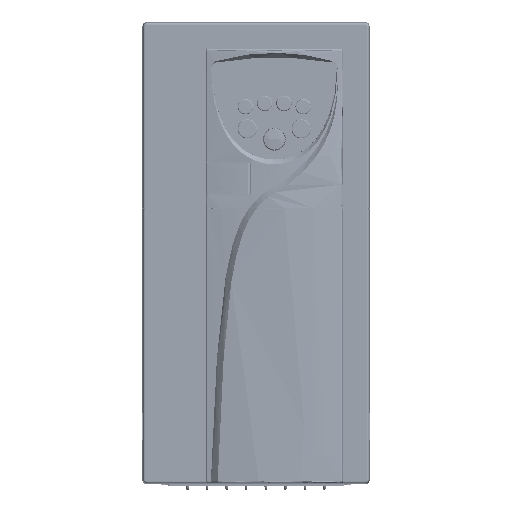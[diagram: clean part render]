
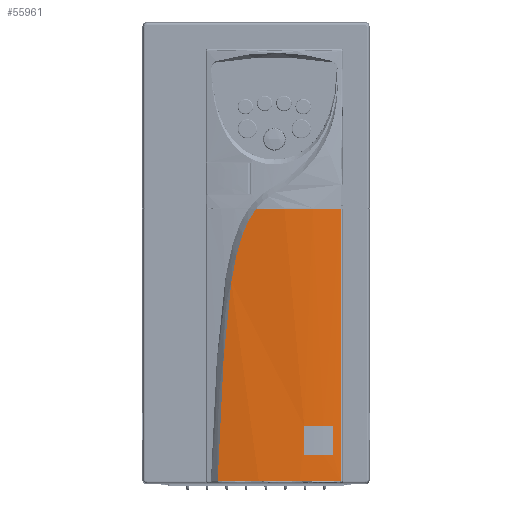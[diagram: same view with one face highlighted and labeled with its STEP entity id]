
A CAD part, top view. The second image highlights one B-rep face of the part: STEP entity #55961.
In plain terms, the highlighted cylindrical face has radius 220.5 mm (diameter 441 mm), a partial arc.
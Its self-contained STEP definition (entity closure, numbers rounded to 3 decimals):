
#55961=ADVANCED_FACE('',(#133831,#133833),#133835,.T.);
#133831=FACE_BOUND('',#133832,.T.);
#133832=EDGE_LOOP('',(#199367,#199368,#199369,#199370,#199371));
#133833=FACE_BOUND('',#133834,.T.);
#133834=EDGE_LOOP('',(#199372,#199373,#199374,#199375));
#133835=CYLINDRICAL_SURFACE('',#133836,220.5);
#133836=AXIS2_PLACEMENT_3D('',#133837,#133838,#133839);
#133837=CARTESIAN_POINT('',(9.5,-57.05,-138.35));
#133838=DIRECTION('',(0.,0.,1.));
#133839=DIRECTION('',(1.,0.,0.));
#199367=ORIENTED_EDGE('',*,*,#234575,.T.);
#199368=ORIENTED_EDGE('',*,*,#234576,.T.);
#199369=ORIENTED_EDGE('',*,*,#234577,.F.);
#199370=ORIENTED_EDGE('',*,*,#234578,.T.);
#199371=ORIENTED_EDGE('',*,*,#234579,.T.);
#199372=ORIENTED_EDGE('',*,*,#234580,.T.);
#199373=ORIENTED_EDGE('',*,*,#234581,.T.);
#199374=ORIENTED_EDGE('',*,*,#234582,.T.);
#199375=ORIENTED_EDGE('',*,*,#234583,.T.);
#234575=EDGE_CURVE('',#270076,#270077,#270078,.T.);
#234576=EDGE_CURVE('',#270077,#270079,#270080,.T.);
#234577=EDGE_CURVE('',#270081,#270079,#270082,.T.);
#234578=EDGE_CURVE('',#270081,#270083,#270084,.T.);
#234579=EDGE_CURVE('',#270083,#270076,#270085,.T.);
#234580=EDGE_CURVE('',#270086,#270087,#270088,.T.);
#234581=EDGE_CURVE('',#270087,#270089,#270090,.T.);
#234582=EDGE_CURVE('',#270089,#270091,#270092,.T.);
#234583=EDGE_CURVE('',#270091,#270086,#270093,.T.);
#270076=VERTEX_POINT('',#387132);
#270077=VERTEX_POINT('',#387133);
#270078=CIRCLE('',#387134,220.5);
#270079=VERTEX_POINT('',#387138);
#270080=B_SPLINE_CURVE_WITH_KNOTS('',3,
(#387139,#387140,#387141,#387142,#387143,#387144,#387145,#387146,#387147,#387148,
#387149,#387150,#387151,#387152,#387153,#387154,#387155,#387156,#387157,#387158,
#387159,#387160,#387161),
.UNSPECIFIED.,.F.,.F.,
(4,1,1,1,1,1,1,1,1,1,1,1,1,1,1,1,1,1,1,1,4),
(0.,0.035,0.066,0.09,0.115,0.139,
0.166,0.193,0.223,0.258,0.3,
0.344,0.393,0.447,0.508,0.576,
0.656,0.741,0.846,0.932,1.),
.UNSPECIFIED.);
#270081=VERTEX_POINT('',#387162);
#270082=B_SPLINE_CURVE_WITH_KNOTS('',3,
(#387163,#387164,#387165,#387166),
.UNSPECIFIED.,.F.,.F.,
(4,4),
(0.,1.),
.UNSPECIFIED.);
#270083=VERTEX_POINT('',#387167);
#270084=B_SPLINE_CURVE_WITH_KNOTS('',3,
(#387168,#387169,#387170,#387171,#387172,#387173,#387174,#387175,#387176,#387177),
.UNSPECIFIED.,.F.,.F.,
(4,1,1,1,1,1,1,4),
(0.,0.179,0.338,0.487,0.641,0.81,
0.935,1.),
.UNSPECIFIED.);
#270085=LINE('',#387178,#387179);
#270086=VERTEX_POINT('',#387181);
#270087=VERTEX_POINT('',#387182);
#270088=LINE('',#387183,#387184);
#270089=VERTEX_POINT('',#387186);
#270090=CIRCLE('',#387187,220.5);
#270091=VERTEX_POINT('',#387191);
#270092=LINE('',#387192,#387193);
#270093=CIRCLE('',#387195,220.5);
#387132=CARTESIAN_POINT('',(44.137,160.712,-22.9));
#387133=CARTESIAN_POINT('',(-0.002,163.245,-22.9));
#387134=AXIS2_PLACEMENT_3D('',#387135,#387136,#387137);
#387135=CARTESIAN_POINT('',(9.5,-57.05,-22.9));
#387136=DIRECTION('',(0.,0.,1.));
#387137=DIRECTION('',(0.157,0.988,0.));
#387138=CARTESIAN_POINT('',(-19.899,161.481,118.319));
#387139=CARTESIAN_POINT('',(-0.002,163.245,-22.9));
#387140=CARTESIAN_POINT('',(-1.007,163.202,-21.52));
#387141=CARTESIAN_POINT('',(-2.854,163.108,-18.923));
#387142=CARTESIAN_POINT('',(-4.827,162.986,-15.046));
#387143=CARTESIAN_POINT('',(-6.345,162.881,-11.562));
#387144=CARTESIAN_POINT('',(-7.541,162.791,-8.27));
#387145=CARTESIAN_POINT('',(-8.636,162.704,-4.825));
#387146=CARTESIAN_POINT('',(-9.627,162.619,-1.209));
#387147=CARTESIAN_POINT('',(-10.567,162.535,2.733));
#387148=CARTESIAN_POINT('',(-11.472,162.451,7.082));
#387149=CARTESIAN_POINT('',(-12.378,162.362,12.136));
#387150=CARTESIAN_POINT('',(-13.259,162.273,17.863));
#387151=CARTESIAN_POINT('',(-14.101,162.184,24.263));
#387152=CARTESIAN_POINT('',(-14.89,162.097,31.269));
#387153=CARTESIAN_POINT('',(-15.645,162.012,39.081));
#387154=CARTESIAN_POINT('',(-16.371,161.927,47.844));
#387155=CARTESIAN_POINT('',(-17.084,161.842,57.871));
#387156=CARTESIAN_POINT('',(-17.763,161.758,69.069));
#387157=CARTESIAN_POINT('',(-18.439,161.673,82.012));
#387158=CARTESIAN_POINT('',(-19.032,161.596,95.24));
#387159=CARTESIAN_POINT('',(-19.521,161.532,107.656));
#387160=CARTESIAN_POINT('',(-19.785,161.496,115.042));
#387161=CARTESIAN_POINT('',(-19.899,161.481,118.319));
#387162=CARTESIAN_POINT('',(-19.899,161.481,118.35));
#387163=CARTESIAN_POINT('',(-19.899,161.481,118.35));
#387164=CARTESIAN_POINT('',(-19.899,161.481,118.34));
#387165=CARTESIAN_POINT('',(-19.899,161.481,118.329));
#387166=CARTESIAN_POINT('',(-19.899,161.481,118.319));
#387167=CARTESIAN_POINT('',(44.137,160.712,118.377));
#387168=CARTESIAN_POINT('',(-19.899,161.481,118.35));
#387169=CARTESIAN_POINT('',(-16.092,161.993,118.337));
#387170=CARTESIAN_POINT('',(-8.883,162.772,118.311));
#387171=CARTESIAN_POINT('',(1.527,163.379,118.285));
#387172=CARTESIAN_POINT('',(11.423,163.513,118.28));
#387173=CARTESIAN_POINT('',(21.52,163.204,118.291));
#387174=CARTESIAN_POINT('',(31.101,162.457,118.316));
#387175=CARTESIAN_POINT('',(38.733,161.533,118.349));
#387176=CARTESIAN_POINT('',(42.764,160.931,118.37));
#387177=CARTESIAN_POINT('',(44.137,160.712,118.377));
#387178=CARTESIAN_POINT('',(44.137,160.712,118.377));
#387179=VECTOR('',#387180,1.);
#387180=DIRECTION('',(0.,0.,-1.));
#387181=CARTESIAN_POINT('',(40.,161.33,90.));
#387182=CARTESIAN_POINT('',(40.,161.33,105.));
#387183=CARTESIAN_POINT('',(40.,161.33,90.));
#387184=VECTOR('',#387185,1.);
#387185=DIRECTION('',(0.,0.,1.));
#387186=CARTESIAN_POINT('',(25.,162.904,105.));
#387187=AXIS2_PLACEMENT_3D('',#387188,#387189,#387190);
#387188=CARTESIAN_POINT('',(9.5,-57.05,105.));
#387189=DIRECTION('',(0.,0.,1.));
#387190=DIRECTION('',(0.138,0.99,0.));
#387191=CARTESIAN_POINT('',(25.,162.904,90.));
#387192=CARTESIAN_POINT('',(25.,162.904,105.));
#387193=VECTOR('',#387194,1.);
#387194=DIRECTION('',(0.,0.,-1.));
#387195=AXIS2_PLACEMENT_3D('',#387196,#387197,#387198);
#387196=CARTESIAN_POINT('',(9.5,-57.05,90.));
#387197=DIRECTION('',(0.,0.,-1.));
#387198=DIRECTION('',(0.07,0.998,0.));
